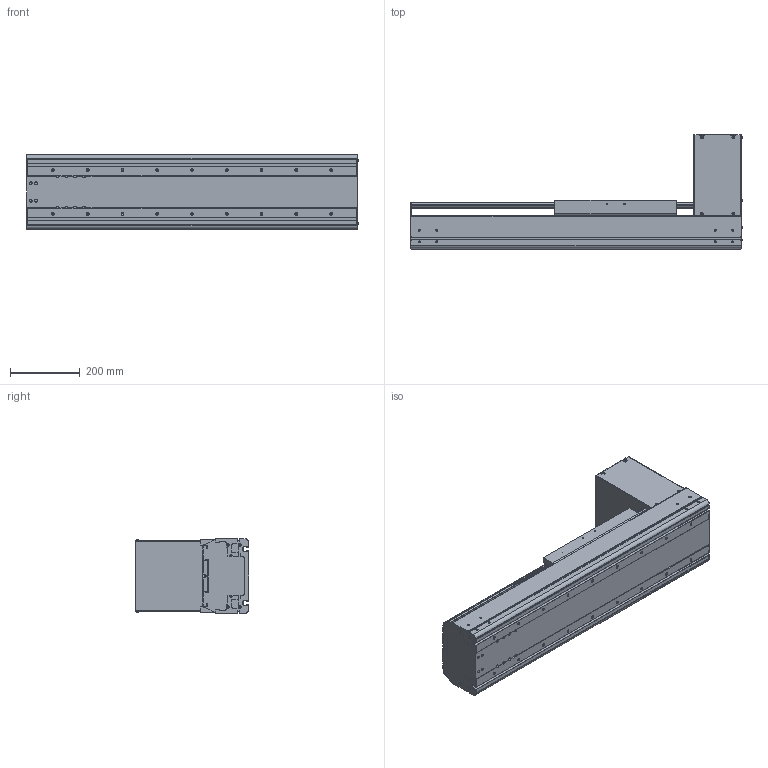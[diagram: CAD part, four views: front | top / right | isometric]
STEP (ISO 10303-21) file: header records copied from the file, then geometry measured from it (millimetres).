
FILE_DESCRIPTION((''),'2;1');
FILE_NAME('BE60J-BT-L19N-35_IGS_PRT','2017-06-18T',(' '),(''),'PRO/ENGINEER BY PARAMETRIC TECHNOLOGY CORPORATION, 2015030','PRO/ENGINEER BY PARAMETRIC TECHNOLOGY CORPORATION, 2015030','');
FILE_SCHEMA(('CONFIG_CONTROL_DESIGN'));
Products named in the file (1): BE60J-BT-L19N-35_IGS_PRT
Bounding box: 954.4 x 327.5 x 214 mm (x, y, z)
Volume: 7079326.2 mm3; surface area: 2448092 mm2
Topology: 1 solids, 175 shells, 1858 faces, 5124 edges, 3380 vertices
Faces by surface type: cylinder 844, plane 782, cone 136, sphere 48, torus 48
Entity records: 60906 total; most frequent: CARTESIAN_POINT 13312, DIRECTION 10071, ORIENTED_EDGE 9372, EDGE_CURVE 5008, AXIS2_PLACEMENT_3D 3725, VERTEX_POINT 3370, VECTOR 2621, LINE 2621
